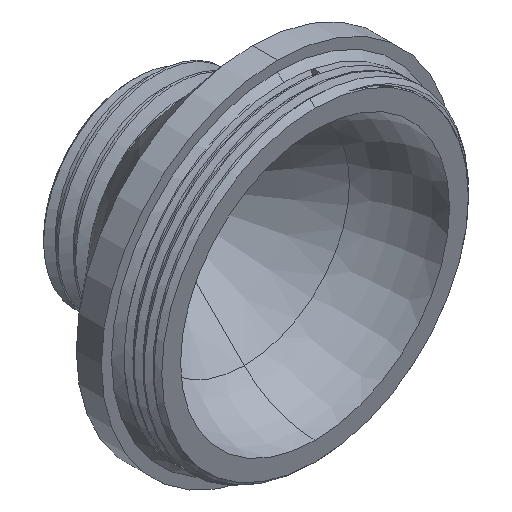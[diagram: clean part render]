
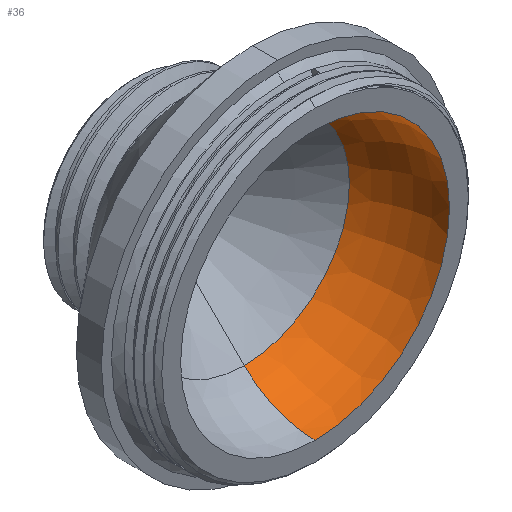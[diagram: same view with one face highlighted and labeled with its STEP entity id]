
A CAD part, isometric view. The second image highlights one B-rep face of the part: STEP entity #36.
In plain terms, the highlighted toroidal (fillet/blend) face has major radius 2.733 mm and minor radius 7.967 mm.
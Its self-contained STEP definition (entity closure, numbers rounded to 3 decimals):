
#31 = DIRECTION ( 'NONE',  ( 0., 0., -1. ) ) ;
#36 = ADVANCED_FACE ( 'NONE', ( #4255 ), #2785, .F. ) ;
#46 = DIRECTION ( 'NONE',  ( 1., 0., 0. ) ) ;
#260 = AXIS2_PLACEMENT_3D ( 'NONE', #324, #5570, #4177 ) ;
#324 = CARTESIAN_POINT ( 'NONE',  ( 0., 0., 0. ) ) ;
#329 = VERTEX_POINT ( 'NONE', #2808 ) ;
#422 = EDGE_CURVE ( 'NONE', #329, #5636, #2120, .T. ) ;
#737 = DIRECTION ( 'NONE',  ( 0., -1., 0. ) ) ;
#873 = DIRECTION ( 'NONE',  ( 0., -1., 0. ) ) ;
#1013 = CARTESIAN_POINT ( 'NONE',  ( 0., 5.633, -8.367 ) ) ;
#1081 = CARTESIAN_POINT ( 'NONE',  ( 0., 0., 10.7 ) ) ;
#1178 = ORIENTED_EDGE ( 'NONE', *, *, #3818, .F. ) ;
#1624 = VERTEX_POINT ( 'NONE', #1013 ) ;
#1657 = CARTESIAN_POINT ( 'NONE',  ( 0., 0., -10.7 ) ) ;
#1846 = AXIS2_PLACEMENT_3D ( 'NONE', #5321, #46, #2639 ) ;
#1889 = CIRCLE ( 'NONE', #5085, 8.367 ) ;
#2120 = CIRCLE ( 'NONE', #1846, 7.967 ) ;
#2173 = ORIENTED_EDGE ( 'NONE', *, *, #422, .F. ) ;
#2186 = DIRECTION ( 'NONE',  ( 0., 0., -1. ) ) ;
#2243 = AXIS2_PLACEMENT_3D ( 'NONE', #4196, #737, #31 ) ;
#2387 = DIRECTION ( 'NONE',  ( -1., 0., 0. ) ) ;
#2639 = DIRECTION ( 'NONE',  ( 0., 0., -1. ) ) ;
#2716 = CIRCLE ( 'NONE', #260, 10.7 ) ;
#2785 = TOROIDAL_SURFACE ( 'NONE', #2243, 2.733, 7.967 ) ;
#2808 = CARTESIAN_POINT ( 'NONE',  ( 0., 5.633, 8.367 ) ) ;
#2993 = AXIS2_PLACEMENT_3D ( 'NONE', #5388, #2387, #4073 ) ;
#3032 = ORIENTED_EDGE ( 'NONE', *, *, #4819, .T. ) ;
#3520 = CARTESIAN_POINT ( 'NONE',  ( 0., 5.633, 0. ) ) ;
#3584 = EDGE_LOOP ( 'NONE', ( #2173, #1178, #3032, #4138 ) ) ;
#3719 = CIRCLE ( 'NONE', #2993, 7.967 ) ;
#3818 = EDGE_CURVE ( 'NONE', #1624, #329, #1889, .T. ) ;
#4073 = DIRECTION ( 'NONE',  ( 0., 0., 1. ) ) ;
#4138 = ORIENTED_EDGE ( 'NONE', *, *, #5110, .T. ) ;
#4177 = DIRECTION ( 'NONE',  ( 0., 0., -1. ) ) ;
#4196 = CARTESIAN_POINT ( 'NONE',  ( 0., 0., 0. ) ) ;
#4215 = VERTEX_POINT ( 'NONE', #1657 ) ;
#4255 = FACE_OUTER_BOUND ( 'NONE', #3584, .T. ) ;
#4819 = EDGE_CURVE ( 'NONE', #1624, #4215, #3719, .T. ) ;
#5085 = AXIS2_PLACEMENT_3D ( 'NONE', #3520, #873, #2186 ) ;
#5110 = EDGE_CURVE ( 'NONE', #4215, #5636, #2716, .T. ) ;
#5321 = CARTESIAN_POINT ( 'NONE',  ( 0., 0., 2.733 ) ) ;
#5388 = CARTESIAN_POINT ( 'NONE',  ( 0., 0., -2.733 ) ) ;
#5570 = DIRECTION ( 'NONE',  ( 0., -1., 0. ) ) ;
#5636 = VERTEX_POINT ( 'NONE', #1081 ) ;
